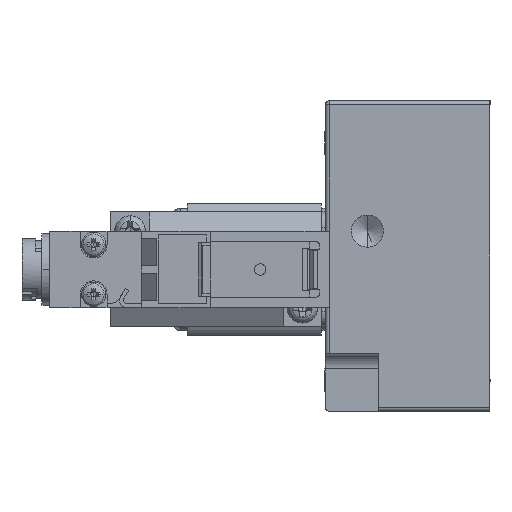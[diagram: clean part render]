
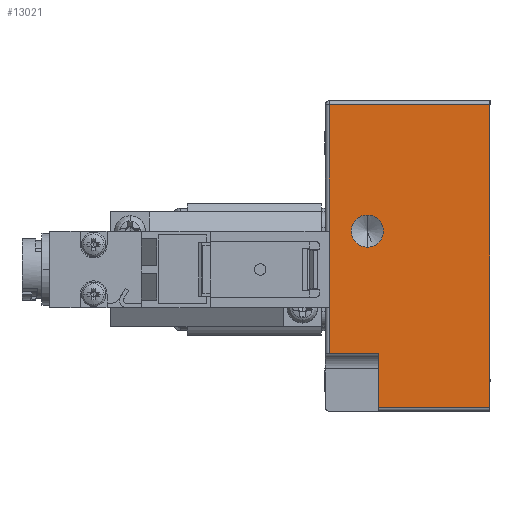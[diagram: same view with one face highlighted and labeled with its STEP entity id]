
A CAD part, left-side view. The second image highlights one B-rep face of the part: STEP entity #13021.
In plain terms, the highlighted planar face has unit normal (-1, 0, 0).
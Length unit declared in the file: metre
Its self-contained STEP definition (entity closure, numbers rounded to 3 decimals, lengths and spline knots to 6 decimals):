
#39 = EDGE_LOOP ( 'NONE', ( #13222, #7677, #769, #5678, #19392, #325 ) ) ;
#325 = ORIENTED_EDGE ( 'NONE', *, *, #14241, .T. ) ;
#559 = VERTEX_POINT ( 'NONE', #8119 ) ;
#769 = ORIENTED_EDGE ( 'NONE', *, *, #21722, .T. ) ;
#1097 = CARTESIAN_POINT ( 'NONE',  ( -0.028, -0.0055, 0.0029 ) ) ;
#1135 = EDGE_CURVE ( 'NONE', #18962, #21854, #1807, .T. ) ;
#1291 = CARTESIAN_POINT ( 'NONE',  ( -0.028, -0.007, -0.011 ) ) ;
#1453 = CIRCLE ( 'NONE', #11347, 0.0021 ) ;
#1807 = LINE ( 'NONE', #15822, #14552 ) ;
#2215 = CARTESIAN_POINT ( 'NONE',  ( -0.028, -0.0215, -0.018 ) ) ;
#2743 = VERTEX_POINT ( 'NONE', #5585 ) ;
#2804 = CARTESIAN_POINT ( 'NONE',  ( -0.028, -0.0215, -0.018 ) ) ;
#3135 = AXIS2_PLACEMENT_3D ( 'NONE', #20387, #9824, #22177 ) ;
#3454 = EDGE_CURVE ( 'NONE', #2743, #5950, #1453, .T. ) ;
#3508 = DIRECTION ( 'NONE',  ( 0., 0., 1. ) ) ;
#3622 = DIRECTION ( 'NONE',  ( 0., 1., 0. ) ) ;
#3924 = VERTEX_POINT ( 'NONE', #2215 ) ;
#5585 = CARTESIAN_POINT ( 'NONE',  ( -0.028, -0.0055, 0.0071 ) ) ;
#5678 = ORIENTED_EDGE ( 'NONE', *, *, #7936, .T. ) ;
#5950 = VERTEX_POINT ( 'NONE', #1097 ) ;
#6091 = VECTOR ( 'NONE', #3622, 1. ) ;
#6246 = PLANE ( 'NONE',  #14517 ) ;
#6625 = LINE ( 'NONE', #17581, #6091 ) ;
#6731 = EDGE_CURVE ( 'NONE', #5950, #2743, #6806, .T. ) ;
#6806 = CIRCLE ( 'NONE', #3135, 0.0021 ) ;
#6911 = CARTESIAN_POINT ( 'NONE',  ( -0.028, -0.0215, 0.00175 ) ) ;
#7375 = LINE ( 'NONE', #6911, #15636 ) ;
#7677 = ORIENTED_EDGE ( 'NONE', *, *, #1135, .T. ) ;
#7936 = EDGE_CURVE ( 'NONE', #8359, #21467, #15008, .T. ) ;
#7953 = DIRECTION ( 'NONE',  ( 0., 0., 1. ) ) ;
#8119 = CARTESIAN_POINT ( 'NONE',  ( -0.028, -0.0215, 0.0215 ) ) ;
#8359 = VERTEX_POINT ( 'NONE', #1291 ) ;
#9096 = CARTESIAN_POINT ( 'NONE',  ( -0.028, -0.007, 0.00175 ) ) ;
#9175 = DIRECTION ( 'NONE',  ( 0., 0., -1. ) ) ;
#9824 = DIRECTION ( 'NONE',  ( -1., 0., 0. ) ) ;
#10328 = VECTOR ( 'NONE', #9175, 1. ) ;
#10458 = VECTOR ( 'NONE', #22204, 1. ) ;
#10655 = EDGE_CURVE ( 'NONE', #21467, #3924, #20692, .T. ) ;
#11347 = AXIS2_PLACEMENT_3D ( 'NONE', #11367, #11448, #11742 ) ;
#11367 = CARTESIAN_POINT ( 'NONE',  ( -0.028, -0.0055, 0.005 ) ) ;
#11448 = DIRECTION ( 'NONE',  ( -1., 0., 0. ) ) ;
#11615 = CARTESIAN_POINT ( 'NONE',  ( -0.028, -0.011, -0.011 ) ) ;
#11681 = DIRECTION ( 'NONE',  ( 0., -1., 0. ) ) ;
#11742 = DIRECTION ( 'NONE',  ( 0., 0., 1. ) ) ;
#11918 = CARTESIAN_POINT ( 'NONE',  ( -0.028, -0.0005, -0.011 ) ) ;
#12071 = FACE_OUTER_BOUND ( 'NONE', #39, .T. ) ;
#13021 = ADVANCED_FACE ( 'NONE', ( #17354, #12071 ), #6246, .T. ) ;
#13222 = ORIENTED_EDGE ( 'NONE', *, *, #21996, .T. ) ;
#14241 = EDGE_CURVE ( 'NONE', #3924, #559, #7375, .T. ) ;
#14517 = AXIS2_PLACEMENT_3D ( 'NONE', #2804, #18526, #7953 ) ;
#14552 = VECTOR ( 'NONE', #16996, 1. ) ;
#14769 = CARTESIAN_POINT ( 'NONE',  ( -0.028, -0.0005, 0.0215 ) ) ;
#15008 = LINE ( 'NONE', #9096, #10328 ) ;
#15155 = CARTESIAN_POINT ( 'NONE',  ( -0.028, -0.011, -0.018 ) ) ;
#15636 = VECTOR ( 'NONE', #3508, 1. ) ;
#15822 = CARTESIAN_POINT ( 'NONE',  ( -0.028, -0.0005, 0.00175 ) ) ;
#16021 = VECTOR ( 'NONE', #11681, 1. ) ;
#16825 = LINE ( 'NONE', #11615, #10458 ) ;
#16996 = DIRECTION ( 'NONE',  ( 0., 0., -1. ) ) ;
#17202 = ORIENTED_EDGE ( 'NONE', *, *, #6731, .F. ) ;
#17354 = FACE_BOUND ( 'NONE', #21788, .T. ) ;
#17581 = CARTESIAN_POINT ( 'NONE',  ( -0.028, -0.011, 0.0215 ) ) ;
#18526 = DIRECTION ( 'NONE',  ( -1., 0., 0. ) ) ;
#18962 = VERTEX_POINT ( 'NONE', #14769 ) ;
#19392 = ORIENTED_EDGE ( 'NONE', *, *, #10655, .T. ) ;
#20387 = CARTESIAN_POINT ( 'NONE',  ( -0.028, -0.0055, 0.005 ) ) ;
#20692 = LINE ( 'NONE', #15155, #16021 ) ;
#21369 = ORIENTED_EDGE ( 'NONE', *, *, #3454, .F. ) ;
#21467 = VERTEX_POINT ( 'NONE', #21578 ) ;
#21578 = CARTESIAN_POINT ( 'NONE',  ( -0.028, -0.007, -0.018 ) ) ;
#21722 = EDGE_CURVE ( 'NONE', #21854, #8359, #16825, .T. ) ;
#21788 = EDGE_LOOP ( 'NONE', ( #21369, #17202 ) ) ;
#21854 = VERTEX_POINT ( 'NONE', #11918 ) ;
#21996 = EDGE_CURVE ( 'NONE', #559, #18962, #6625, .T. ) ;
#22177 = DIRECTION ( 'NONE',  ( 0., 0., 1. ) ) ;
#22204 = DIRECTION ( 'NONE',  ( 0., -1., 0. ) ) ;
